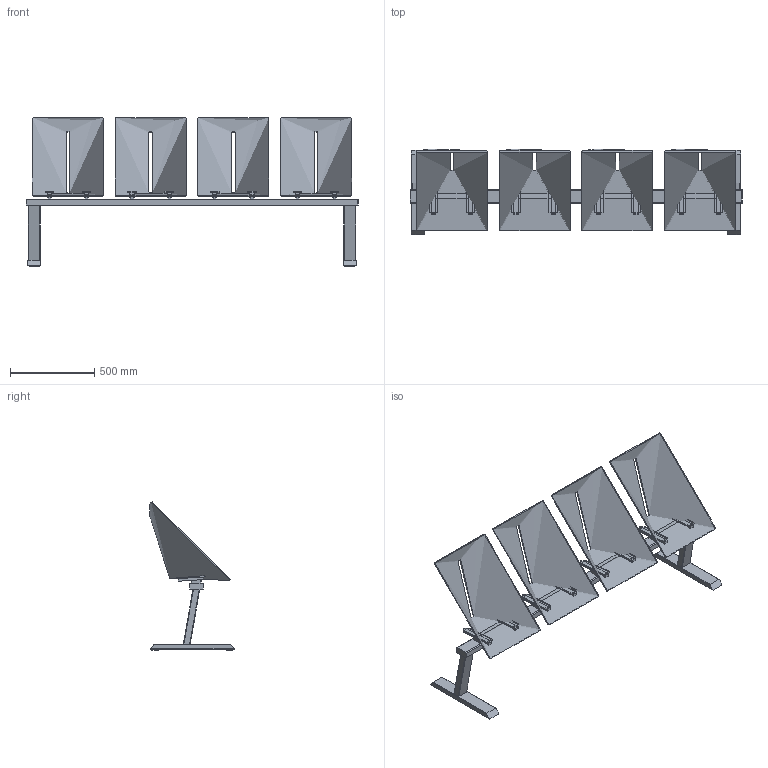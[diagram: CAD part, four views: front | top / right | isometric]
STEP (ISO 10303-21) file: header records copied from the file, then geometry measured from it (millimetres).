
FILE_DESCRIPTION(/* description */ (''),/* implementation_level */ '2;1');
FILE_NAME(/* name */ 'TW2D3A~1',/* time_stamp */ '2016-06-28T23:41:04+02:00',/* author */ (''),/* organization */ (''),/* preprocessor_version */ 'ST-DEVELOPER v15',/* originating_system */ '',/* authorisation */ '');
FILE_SCHEMA (('CONFIG_CONTROL_DESIGN'));
Length unit declared in the file: millimetre
Products named in the file (1): Document
Bounding box: 1966 x 504.17 x 878.87 mm (x, y, z)
Volume: 14913088.8 mm3; surface area: 4107484.3 mm2
Topology: 10 solids, 51 shells, 406 faces, 1075 edges, 708 vertices
Faces by surface type: plane 250, bspline 156
Entity records: 23123 total; most frequent: CARTESIAN_POINT 16531, ORIENTED_EDGE 1784, EDGE_CURVE 1072, B_SPLINE_CURVE_WITH_KNOTS 834, VERTEX_POINT 704, EDGE_LOOP 414, ADVANCED_FACE 406, FACE_OUTER_BOUND 406
